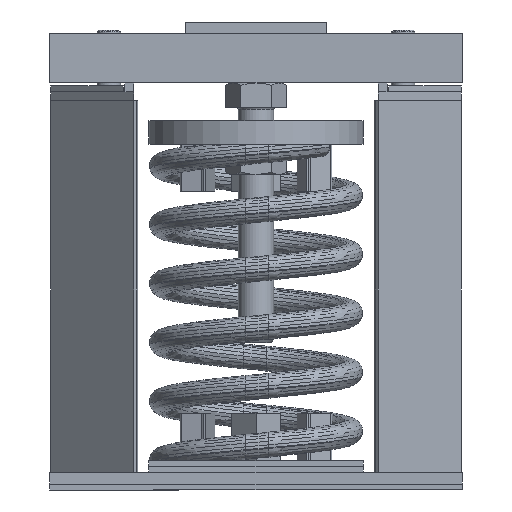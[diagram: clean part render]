
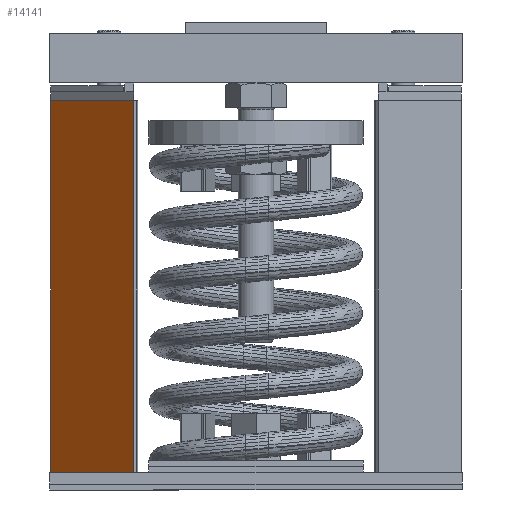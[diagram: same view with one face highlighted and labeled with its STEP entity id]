
A CAD part, front view. The second image highlights one B-rep face of the part: STEP entity #14141.
In plain terms, the highlighted planar face has unit normal (-0.707, -0.707, 0).
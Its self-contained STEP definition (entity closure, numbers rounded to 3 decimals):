
#2388=FACE_OUTER_BOUND('',#3379,.T.);
#3379=EDGE_LOOP('',(#8778,#8779,#8780,#8781));
#4508=LINE('',#18087,#5034);
#4510=LINE('',#18091,#5036);
#4511=LINE('',#18093,#5037);
#4512=LINE('',#18094,#5038);
#5034=VECTOR('',#15977,15.785);
#5036=VECTOR('',#15981,5.);
#5037=VECTOR('',#15982,15.785);
#5038=VECTOR('',#15983,5.);
#5560=VERTEX_POINT('',#18084);
#5561=VERTEX_POINT('',#18086);
#5562=VERTEX_POINT('',#18090);
#5563=VERTEX_POINT('',#18092);
#6749=EDGE_CURVE('',#5561,#5560,#4508,.T.);
#6751=EDGE_CURVE('',#5560,#5562,#4510,.T.);
#6752=EDGE_CURVE('',#5563,#5562,#4511,.T.);
#6753=EDGE_CURVE('',#5561,#5563,#4512,.T.);
#8778=ORIENTED_EDGE('',*,*,#6751,.T.);
#8779=ORIENTED_EDGE('',*,*,#6752,.F.);
#8780=ORIENTED_EDGE('',*,*,#6753,.F.);
#8781=ORIENTED_EDGE('',*,*,#6749,.T.);
#12818=PLANE('',#15174);
#14141=ADVANCED_FACE('',(#2388),#12818,.T.);
#15174=AXIS2_PLACEMENT_3D('',#18089,#15979,#15980);
#15977=DIRECTION('',(0.,0.,1.));
#15979=DIRECTION('center_axis',(-0.707,-0.707,0.));
#15980=DIRECTION('ref_axis',(0.,0.,-1.));
#15981=DIRECTION('',(-0.707,0.707,0.));
#15982=DIRECTION('',(0.,0.,1.));
#15983=DIRECTION('',(-0.707,0.707,0.));
#18084=CARTESIAN_POINT('',(-5.189,-3.536,16.535));
#18086=CARTESIAN_POINT('',(-5.189,-3.536,0.75));
#18087=CARTESIAN_POINT('',(-5.189,-3.536,0.75));
#18089=CARTESIAN_POINT('Origin',(-5.189,-3.536,0.75));
#18090=CARTESIAN_POINT('',(-8.725,0.,16.535));
#18091=CARTESIAN_POINT('',(-6.073,-2.652,16.535));
#18092=CARTESIAN_POINT('',(-8.725,0.,0.75));
#18093=CARTESIAN_POINT('',(-8.725,0.,0.75));
#18094=CARTESIAN_POINT('',(-6.073,-2.652,0.75));
